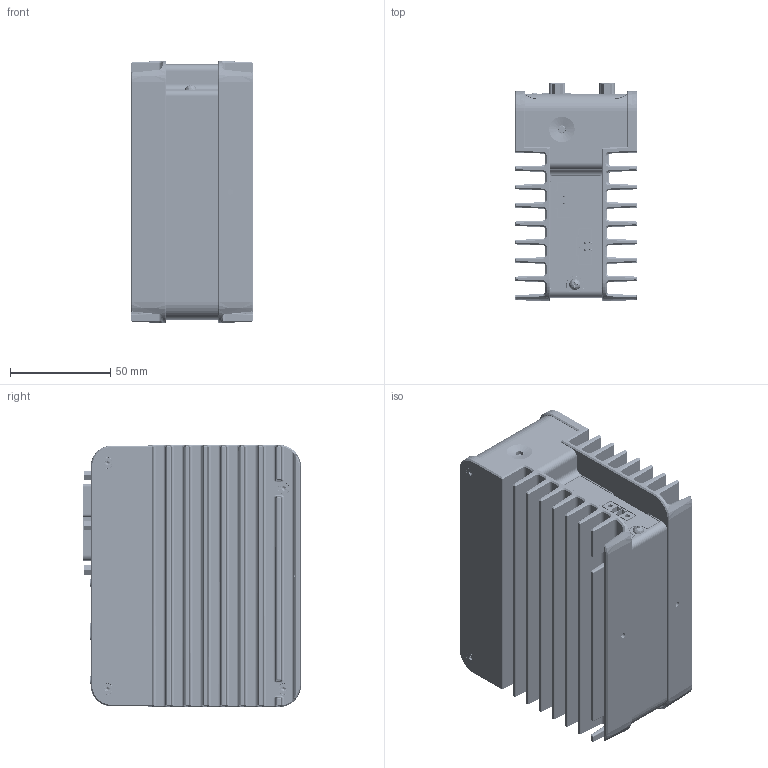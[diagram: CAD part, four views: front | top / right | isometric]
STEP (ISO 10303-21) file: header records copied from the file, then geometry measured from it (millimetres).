
FILE_DESCRIPTION((''),'2;1');
FILE_NAME('CU_CVS-1459RT','2014-07-16T',('dkendric'),(''),'PRO/ENGINEER BY PARAMETRIC TECHNOLOGY CORPORATION, 2014000','PRO/ENGINEER BY PARAMETRIC TECHNOLOGY CORPORATION, 2014000','');
FILE_SCHEMA(('CONFIG_CONTROL_DESIGN'));
Products named in the file (1): CU_CVS-1459RT
Bounding box: 60.97 x 108.47 x 130.38 mm (x, y, z)
Volume: 222523.6 mm3; surface area: 188422 mm2
Topology: 16 solids, 24 shells, 8211 faces, 21725 edges, 13610 vertices
Faces by surface type: plane 4624, cylinder 2294, bspline 592, cone 451, torus 194, sphere 36, extrusion 20
Entity records: 308759 total; most frequent: CARTESIAN_POINT 109830, ORIENTED_EDGE 43324, DIRECTION 38633, EDGE_CURVE 21662, VECTOR 14335, LINE 14315, VERTEX_POINT 13629, AXIS2_PLACEMENT_3D 12149
